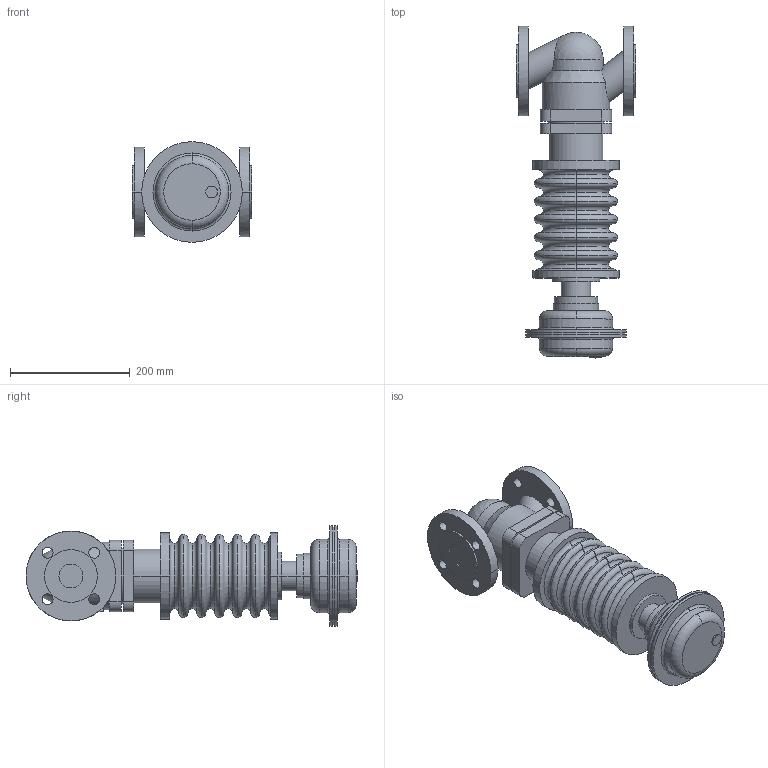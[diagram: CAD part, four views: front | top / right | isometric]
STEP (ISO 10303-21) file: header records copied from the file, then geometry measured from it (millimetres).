
FILE_DESCRIPTION( ( '' ), '1' );
FILE_NAME( 'C:/temp/WMCHECKOUT/c000005805.stp', '2015-07-13T08:48:57', ( '' ), ( '' ), ' ', ' ', ' ' );
FILE_SCHEMA( ( 'CONFIG_CONTROL_DESIGN' ) );
Length unit declared in the file: millimetre
Products named in the file (2): 1; 2
Bounding box: 200 x 554 x 168 mm (x, y, z)
Volume: 6188085.1 mm3; surface area: 426411.3 mm2
Topology: 2 solids, 2 shells, 185 faces, 442 edges, 284 vertices
Faces by surface type: cylinder 76, torus 54, plane 52, cone 2, sphere 1
Entity records: 6039 total; most frequent: CARTESIAN_POINT 1386, DIRECTION 1084, ORIENTED_EDGE 880, AXIS2_PLACEMENT_3D 473, EDGE_CURVE 440, VERTEX_POINT 284, CIRCLE 280, EDGE_LOOP 226
